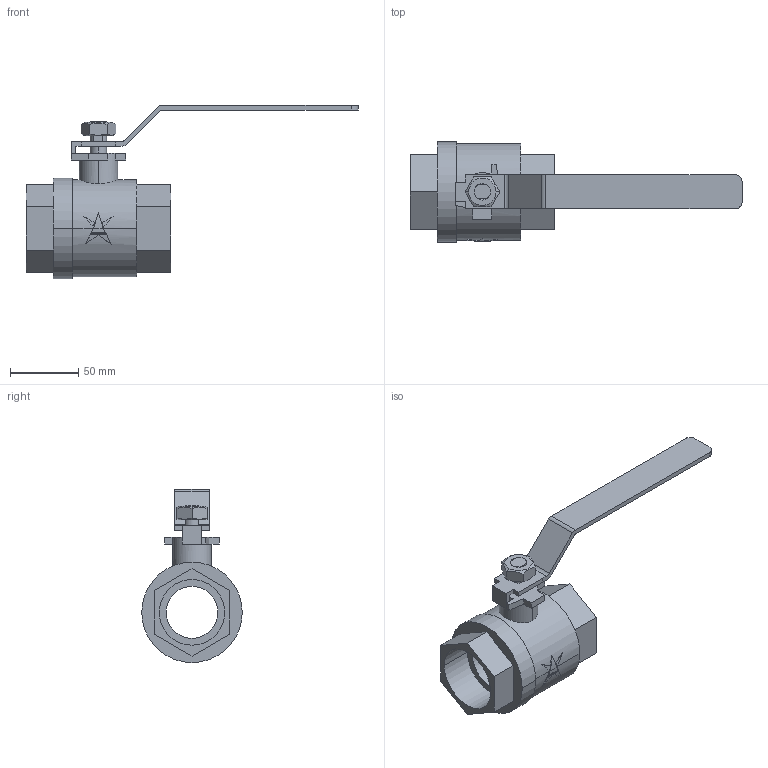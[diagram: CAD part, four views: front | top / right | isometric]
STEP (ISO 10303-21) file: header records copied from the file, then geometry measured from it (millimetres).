
FILE_DESCRIPTION(('STEP AP214'),'1');
FILE_NAME('tmp0.STP','2019-10-22T08:15:23',(' '),(' '),'Spatial InterOp 3D',' ',' ');
FILE_SCHEMA(('AUTOMOTIVE_DESIGN { 1 0 10303 214 1 1 1 1 }'));
Length unit declared in the file: millimetre
Products named in the file (1): 2
Bounding box: 243 x 73.5 x 126.75 mm (x, y, z)
Volume: 251434.1 mm3; surface area: 60794.7 mm2
Topology: 3 solids, 3 shells, 144 faces, 363 edges, 238 vertices
Faces by surface type: plane 97, cylinder 39, cone 8
Entity records: 5590 total; most frequent: CARTESIAN_POINT 846, DIRECTION 757, ORIENTED_EDGE 726, EDGE_CURVE 363, AXIS2_PLACEMENT_3D 265, VERTEX_POINT 238, LINE 227, VECTOR 227
